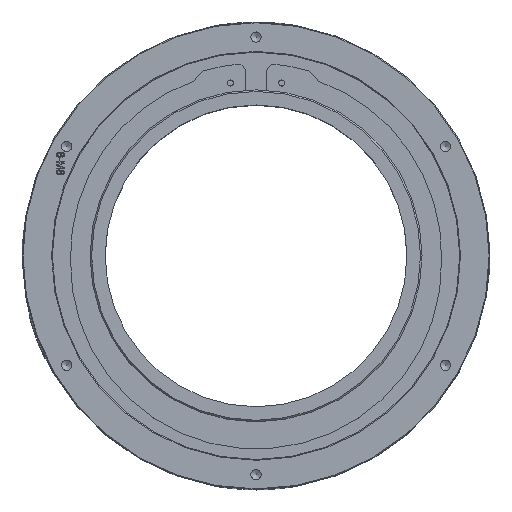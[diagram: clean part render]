
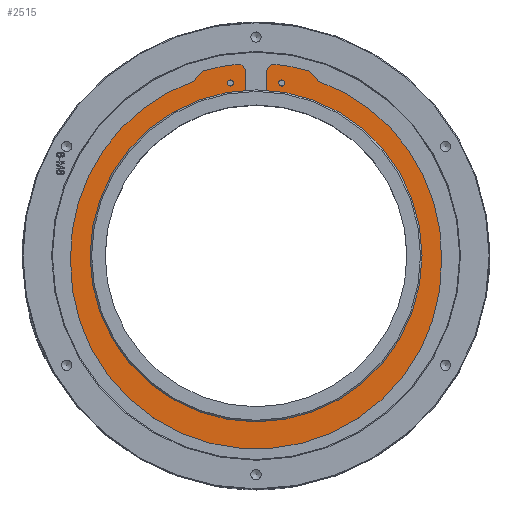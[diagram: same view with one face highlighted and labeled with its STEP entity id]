
A CAD part, top view. The second image highlights one B-rep face of the part: STEP entity #2515.
In plain terms, the highlighted planar face has unit normal (0, 0, 1).
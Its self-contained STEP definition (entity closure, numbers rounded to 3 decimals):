
#240=FACE_BOUND('',#6694,.T.);
#241=FACE_BOUND('',#6695,.T.);
#242=FACE_BOUND('',#6696,.T.);
#750=CIRCLE('',#23200,2.);
#751=CIRCLE('',#23201,2.);
#752=CIRCLE('',#23202,105.);
#753=CIRCLE('',#23203,5.);
#754=CIRCLE('',#23204,5.);
#755=CIRCLE('',#23205,127.5);
#756=CIRCLE('',#23206,123.);
#757=CIRCLE('',#23207,123.);
#758=CIRCLE('',#23208,123.);
#759=CIRCLE('',#23209,127.5);
#760=CIRCLE('',#23210,5.);
#761=CIRCLE('',#23211,5.);
#1205=PLANE('',#23212);
#1709=LINE('',#44707,#4423);
#1710=LINE('',#44713,#4424);
#1711=LINE('',#44715,#4425);
#1712=LINE('',#44723,#4426);
#1713=LINE('',#44725,#4427);
#1714=LINE('',#44731,#4428);
#2515=ADVANCED_FACE('',(#240,#241,#242),#1205,.T.);
#4423=VECTOR('',#25307,1.);
#4424=VECTOR('',#25312,1.);
#4425=VECTOR('',#25313,1.);
#4426=VECTOR('',#25320,1.);
#4427=VECTOR('',#25321,1.);
#4428=VECTOR('',#25326,1.);
#6694=EDGE_LOOP('',(#10160));
#6695=EDGE_LOOP('',(#10161));
#6696=EDGE_LOOP('',(#10162,#10163,#10164,#10165,#10166,#10167,#10168,#10169,
#10170,#10171,#10172,#10173,#10174,#10175,#10176,#10177));
#10160=ORIENTED_EDGE('',*,*,#18303,.F.);
#10161=ORIENTED_EDGE('',*,*,#18304,.F.);
#10162=ORIENTED_EDGE('',*,*,#18305,.T.);
#10163=ORIENTED_EDGE('',*,*,#18306,.T.);
#10164=ORIENTED_EDGE('',*,*,#18307,.T.);
#10165=ORIENTED_EDGE('',*,*,#18308,.T.);
#10166=ORIENTED_EDGE('',*,*,#18309,.F.);
#10167=ORIENTED_EDGE('',*,*,#18310,.T.);
#10168=ORIENTED_EDGE('',*,*,#18311,.F.);
#10169=ORIENTED_EDGE('',*,*,#18312,.F.);
#10170=ORIENTED_EDGE('',*,*,#18313,.F.);
#10171=ORIENTED_EDGE('',*,*,#18314,.F.);
#10172=ORIENTED_EDGE('',*,*,#18315,.F.);
#10173=ORIENTED_EDGE('',*,*,#18316,.T.);
#10174=ORIENTED_EDGE('',*,*,#18317,.F.);
#10175=ORIENTED_EDGE('',*,*,#18318,.T.);
#10176=ORIENTED_EDGE('',*,*,#18319,.F.);
#10177=ORIENTED_EDGE('',*,*,#18320,.T.);
#15404=VERTEX_POINT('',#44699);
#15405=VERTEX_POINT('',#44701);
#15406=VERTEX_POINT('',#44703);
#15407=VERTEX_POINT('',#44704);
#15408=VERTEX_POINT('',#44706);
#15409=VERTEX_POINT('',#44708);
#15410=VERTEX_POINT('',#44710);
#15411=VERTEX_POINT('',#44712);
#15412=VERTEX_POINT('',#44714);
#15413=VERTEX_POINT('',#44716);
#15414=VERTEX_POINT('',#44718);
#15415=VERTEX_POINT('',#44720);
#15416=VERTEX_POINT('',#44722);
#15417=VERTEX_POINT('',#44724);
#15418=VERTEX_POINT('',#44726);
#15419=VERTEX_POINT('',#44728);
#15420=VERTEX_POINT('',#44730);
#15421=VERTEX_POINT('',#44732);
#18303=EDGE_CURVE('',#15404,#15404,#750,.T.);
#18304=EDGE_CURVE('',#15405,#15405,#751,.T.);
#18305=EDGE_CURVE('',#15406,#15407,#752,.T.);
#18306=EDGE_CURVE('',#15407,#15408,#753,.T.);
#18307=EDGE_CURVE('',#15408,#15409,#1709,.T.);
#18308=EDGE_CURVE('',#15409,#15410,#754,.T.);
#18309=EDGE_CURVE('',#15411,#15410,#755,.T.);
#18310=EDGE_CURVE('',#15411,#15412,#1710,.T.);
#18311=EDGE_CURVE('',#15413,#15412,#1711,.T.);
#18312=EDGE_CURVE('',#15414,#15413,#756,.T.);
#18313=EDGE_CURVE('',#15415,#15414,#757,.T.);
#18314=EDGE_CURVE('',#15416,#15415,#758,.T.);
#18315=EDGE_CURVE('',#15417,#15416,#1712,.T.);
#18316=EDGE_CURVE('',#15417,#15418,#1713,.T.);
#18317=EDGE_CURVE('',#15419,#15418,#759,.T.);
#18318=EDGE_CURVE('',#15419,#15420,#760,.T.);
#18319=EDGE_CURVE('',#15421,#15420,#1714,.T.);
#18320=EDGE_CURVE('',#15421,#15406,#761,.T.);
#23200=AXIS2_PLACEMENT_3D('',#44698,#25299,#25300);
#23201=AXIS2_PLACEMENT_3D('',#44700,#25301,#25302);
#23202=AXIS2_PLACEMENT_3D('',#44702,#25303,#25304);
#23203=AXIS2_PLACEMENT_3D('',#44705,#25305,#25306);
#23204=AXIS2_PLACEMENT_3D('',#44709,#25308,#25309);
#23205=AXIS2_PLACEMENT_3D('',#44711,#25310,#25311);
#23206=AXIS2_PLACEMENT_3D('',#44717,#25314,#25315);
#23207=AXIS2_PLACEMENT_3D('',#44719,#25316,#25317);
#23208=AXIS2_PLACEMENT_3D('',#44721,#25318,#25319);
#23209=AXIS2_PLACEMENT_3D('',#44727,#25322,#25323);
#23210=AXIS2_PLACEMENT_3D('',#44729,#25324,#25325);
#23211=AXIS2_PLACEMENT_3D('',#44733,#25327,#25328);
#23212=AXIS2_PLACEMENT_3D('',#44734,#25329,#25330);
#25299=DIRECTION('',(0.,0.,1.));
#25300=DIRECTION('',(1.,0.,0.));
#25301=DIRECTION('',(0.,0.,1.));
#25302=DIRECTION('',(1.,0.,0.));
#25303=DIRECTION('',(0.,0.,-1.));
#25304=DIRECTION('',(1.,0.,0.));
#25305=DIRECTION('',(0.,0.,1.));
#25306=DIRECTION('',(1.,0.,0.));
#25307=DIRECTION('',(0.,1.,0.));
#25308=DIRECTION('',(0.,0.,1.));
#25309=DIRECTION('',(1.,0.,0.));
#25310=DIRECTION('',(0.,0.,-1.));
#25311=DIRECTION('',(1.,0.,0.));
#25312=DIRECTION('',(-0.643,-0.766,0.));
#25313=DIRECTION('',(-0.94,0.342,0.));
#25314=DIRECTION('',(0.,0.,-1.));
#25315=DIRECTION('',(1.,0.,0.));
#25316=DIRECTION('',(0.,0.,-1.));
#25317=DIRECTION('',(1.,0.,0.));
#25318=DIRECTION('',(0.,0.,-1.));
#25319=DIRECTION('',(1.,0.,0.));
#25320=DIRECTION('',(-0.94,-0.342,0.));
#25321=DIRECTION('',(-0.643,0.766,0.));
#25322=DIRECTION('',(0.,0.,-1.));
#25323=DIRECTION('',(1.,0.,0.));
#25324=DIRECTION('',(0.,0.,1.));
#25325=DIRECTION('',(1.,0.,0.));
#25326=DIRECTION('',(0.,1.,0.));
#25327=DIRECTION('',(0.,0.,1.));
#25328=DIRECTION('',(1.,0.,0.));
#25329=DIRECTION('',(0.,0.,1.));
#25330=DIRECTION('',(1.,0.,0.));
#44698=CARTESIAN_POINT('',(17.051,114.577,133.));
#44699=CARTESIAN_POINT('',(19.051,114.577,133.));
#44700=CARTESIAN_POINT('',(-17.051,114.577,133.));
#44701=CARTESIAN_POINT('',(-15.051,114.577,133.));
#44702=CARTESIAN_POINT('',(0.,0.,133.));
#44703=CARTESIAN_POINT('',(11.455,104.373,133.));
#44704=CARTESIAN_POINT('',(-11.455,104.373,133.));
#44705=CARTESIAN_POINT('',(-12.,109.343,133.));
#44706=CARTESIAN_POINT('',(-7.,109.343,133.));
#44707=CARTESIAN_POINT('',(-7.,0.,133.));
#44708=CARTESIAN_POINT('',(-7.,121.911,133.));
#44709=CARTESIAN_POINT('',(-12.,121.911,133.));
#44710=CARTESIAN_POINT('',(-12.49,126.887,133.));
#44711=CARTESIAN_POINT('',(0.,0.,133.));
#44712=CARTESIAN_POINT('',(-35.724,122.393,133.));
#44713=CARTESIAN_POINT('',(-81.231,68.161,133.));
#44714=CARTESIAN_POINT('',(-41.055,116.04,133.));
#44715=CARTESIAN_POINT('',(32.492,89.271,133.));
#44716=CARTESIAN_POINT('',(-40.924,115.992,133.));
#44717=CARTESIAN_POINT('',(0.,0.,133.));
#44718=CARTESIAN_POINT('',(-122.975,-2.5,133.));
#44719=CARTESIAN_POINT('',(0.,-5.,133.));
#44720=CARTESIAN_POINT('',(122.975,-2.5,133.));
#44721=CARTESIAN_POINT('',(0.,0.,133.));
#44722=CARTESIAN_POINT('',(40.924,115.992,133.));
#44723=CARTESIAN_POINT('',(-32.492,89.271,133.));
#44724=CARTESIAN_POINT('',(41.055,116.04,133.));
#44725=CARTESIAN_POINT('',(81.231,68.161,133.));
#44726=CARTESIAN_POINT('',(35.724,122.393,133.));
#44727=CARTESIAN_POINT('',(0.,0.,133.));
#44728=CARTESIAN_POINT('',(12.49,126.887,133.));
#44729=CARTESIAN_POINT('',(12.,121.911,133.));
#44730=CARTESIAN_POINT('',(7.,121.911,133.));
#44731=CARTESIAN_POINT('',(7.,0.,133.));
#44732=CARTESIAN_POINT('',(7.,109.343,133.));
#44733=CARTESIAN_POINT('',(12.,109.343,133.));
#44734=CARTESIAN_POINT('',(0.,0.,133.));
